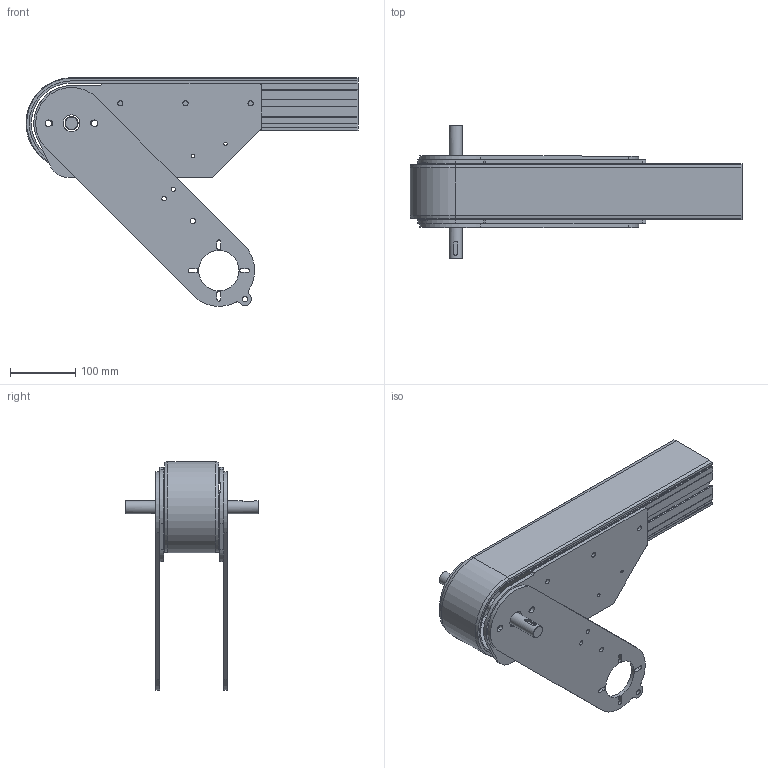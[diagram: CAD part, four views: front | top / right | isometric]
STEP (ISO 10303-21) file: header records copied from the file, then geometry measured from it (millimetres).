
FILE_DESCRIPTION((''),'2;1');
FILE_NAME('C:\Vault Klient\Projekt\Koncept konstruktion\Serie 830 Drivenhet\830-325V.stp','2010-05-24T15:47:17',('Mathias'),(''),'Autodesk Inventor 2010','Autodesk Inventor 2010','');
FILE_SCHEMA(('CONFIG_CONTROL_DESIGN'));
Length unit declared in the file: millimetre
Products named in the file (4): 830-325V; Serie 830 Drivände; 900-3120; 13269
Assembly tree (4 placements, depth 2):
  830-325V
    Serie 830 Drivände
    900-3120  x2
    13269
Bounding box: 509.96 x 205 x 351.27 mm (x, y, z)
Volume: 4014151.9 mm3; surface area: 600310.3 mm2
Topology: 4 solids, 4 shells, 236 faces, 692 edges, 450 vertices
Faces by surface type: plane 134, cylinder 92, cone 6, bspline 4
Full cylindrical faces by diameter (mm): 6.912 x4, 8 x10, 10 x4, 20 x2, 26 x4, 62 x2
Entity records: 6942 total; most frequent: CARTESIAN_POINT 1285, ORIENTED_EDGE 1106, DIRECTION 1101, EDGE_CURVE 553, VECTOR 385, LINE 385, VERTEX_POINT 374, AXIS2_PLACEMENT_3D 358
